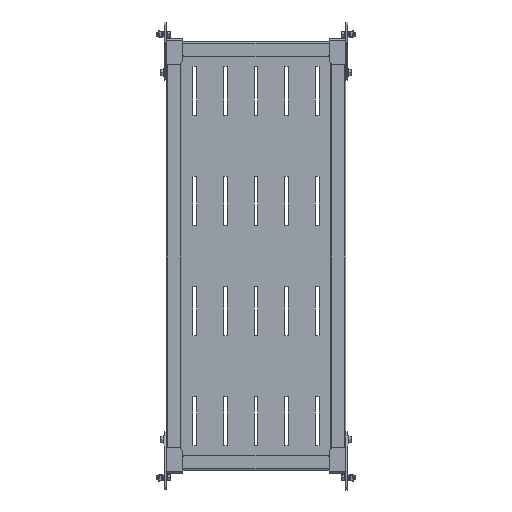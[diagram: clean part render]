
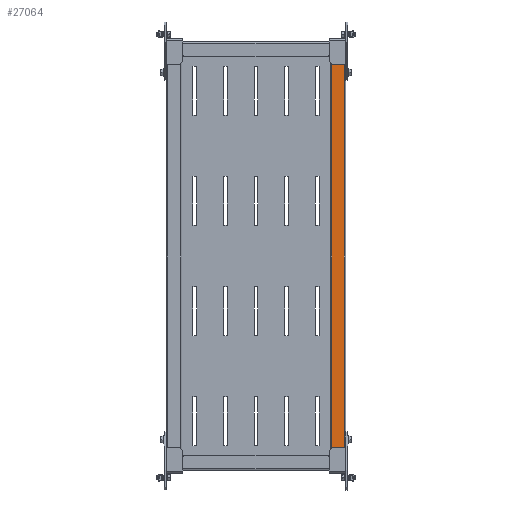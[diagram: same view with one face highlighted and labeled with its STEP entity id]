
A CAD part, front view. The second image highlights one B-rep face of the part: STEP entity #27064.
In plain terms, the highlighted planar face has unit normal (0, -1, 0).
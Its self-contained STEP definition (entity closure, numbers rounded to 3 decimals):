
#220 = DIRECTION ( 'NONE',  ( -1., 0., 0. ) ) ;
#2663 = EDGE_LOOP ( 'NONE', ( #24226, #48847, #62242, #49275 ) ) ;
#5586 = CARTESIAN_POINT ( 'NONE',  ( 0., -45., 0. ) ) ;
#8716 = CARTESIAN_POINT ( 'NONE',  ( -348.4, -45., -143.9 ) ) ;
#8892 = AXIS2_PLACEMENT_3D ( 'NONE', #5586, #65761, #16710 ) ;
#9752 = LINE ( 'NONE', #31616, #25855 ) ;
#16710 = DIRECTION ( 'NONE',  ( 0., 0., 1. ) ) ;
#17244 = EDGE_CURVE ( 'NONE', #47807, #29029, #9752, .T. ) ;
#17560 = CARTESIAN_POINT ( 'NONE',  ( -348.4, -45., -143.9 ) ) ;
#17889 = EDGE_CURVE ( 'NONE', #40050, #47807, #32827, .T. ) ;
#18683 = LINE ( 'NONE', #23720, #38827 ) ;
#19818 = DIRECTION ( 'NONE',  ( 0., 0., -1. ) ) ;
#23720 = CARTESIAN_POINT ( 'NONE',  ( 348.4, -45., 0. ) ) ;
#24226 = ORIENTED_EDGE ( 'NONE', *, *, #17889, .T. ) ;
#25855 = VECTOR ( 'NONE', #19818, 1000. ) ;
#27031 = CARTESIAN_POINT ( 'NONE',  ( -348.4, -45., -124.1 ) ) ;
#27064 = ADVANCED_FACE ( 'NONE', ( #60404 ), #31772, .F. ) ;
#29029 = VERTEX_POINT ( 'NONE', #17560 ) ;
#31616 = CARTESIAN_POINT ( 'NONE',  ( -348.4, -45., 0. ) ) ;
#31772 = PLANE ( 'NONE',  #8892 ) ;
#32827 = LINE ( 'NONE', #49627, #40674 ) ;
#33719 = CARTESIAN_POINT ( 'NONE',  ( 348.4, -45., -143.9 ) ) ;
#35717 = VERTEX_POINT ( 'NONE', #33719 ) ;
#38827 = VECTOR ( 'NONE', #67356, 1000. ) ;
#40050 = VERTEX_POINT ( 'NONE', #45726 ) ;
#40674 = VECTOR ( 'NONE', #220, 1000. ) ;
#42008 = LINE ( 'NONE', #8716, #42338 ) ;
#42338 = VECTOR ( 'NONE', #67819, 1000. ) ;
#45726 = CARTESIAN_POINT ( 'NONE',  ( 348.4, -45., -124.1 ) ) ;
#47807 = VERTEX_POINT ( 'NONE', #27031 ) ;
#48847 = ORIENTED_EDGE ( 'NONE', *, *, #17244, .T. ) ;
#49275 = ORIENTED_EDGE ( 'NONE', *, *, #53591, .T. ) ;
#49627 = CARTESIAN_POINT ( 'NONE',  ( 348.4, -45., -124.1 ) ) ;
#53591 = EDGE_CURVE ( 'NONE', #35717, #40050, #18683, .T. ) ;
#60404 = FACE_OUTER_BOUND ( 'NONE', #2663, .T. ) ;
#62242 = ORIENTED_EDGE ( 'NONE', *, *, #65141, .F. ) ;
#65141 = EDGE_CURVE ( 'NONE', #35717, #29029, #42008, .T. ) ;
#65761 = DIRECTION ( 'NONE',  ( 0., 1., 0. ) ) ;
#67356 = DIRECTION ( 'NONE',  ( 0., 0., 1. ) ) ;
#67819 = DIRECTION ( 'NONE',  ( -1., 0., 0. ) ) ;
